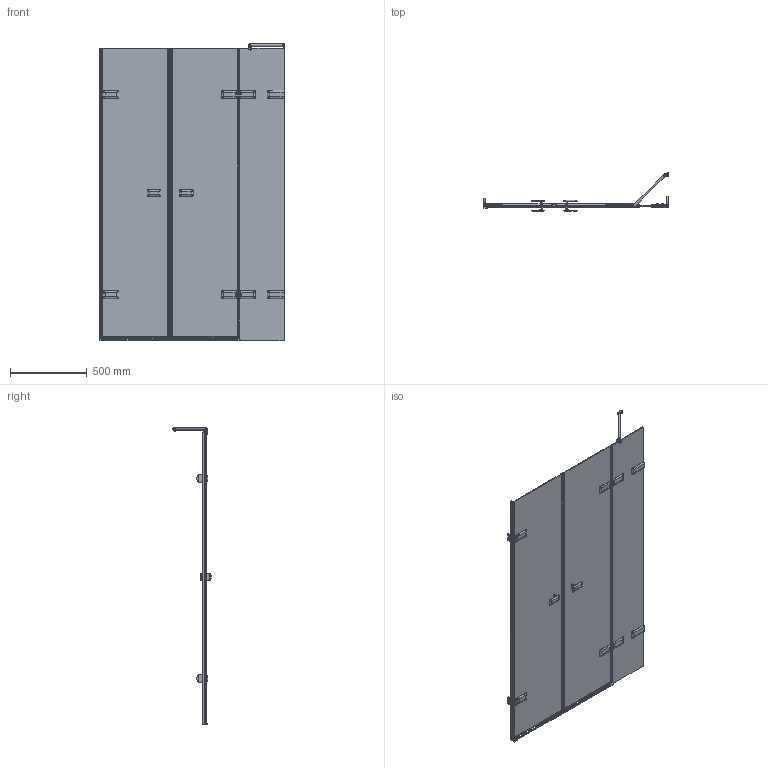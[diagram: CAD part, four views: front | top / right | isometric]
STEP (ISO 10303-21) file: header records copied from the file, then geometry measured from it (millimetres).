
FILE_DESCRIPTION(/* description */ (''),/* implementation_level */ '2;1');
FILE_NAME(/* name */ 'E:\Работа\Сергей\Душевые кабинки\! Работа\777\TREND DOOR GK-863A\TREND DOOR GK-863A левая модель\TREND DOOR GK-863A ЛЕВАЯ-3D.stp',/* time_stamp */ '2018-04-20T18:14:56+03:00',/* author */ ('PC'),/* organization */ (''),/* preprocessor_version */ 'ST-DEVELOPER v15.2',/* originating_system */ 'Autodesk Inventor 2014',/* authorisation */ '');
FILE_SCHEMA (('AUTOMOTIVE_DESIGN { 1 0 10303 214 3 1 1 }'));
Products named in the file (1): TREND DOOR GK-863A ЛЕВАЯ-3D
Bounding box: 1200 x 247.77 x 1934.76 mm (x, y, z)
Volume: 14975557.2 mm3; surface area: 5124740.1 mm2
Topology: 12 solids, 12 shells, 1873 faces, 4956 edges, 3060 vertices
Faces by surface type: plane 1075, cylinder 499, bspline 202, torus 56, cone 22, sphere 19
Full cylindrical faces by diameter (mm): 6 x4, 9 x8, 12 x3, 13 x4, 15 x1, 20 x2, 26 x1, 40 x2
Entity records: 77575 total; most frequent: CARTESIAN_POINT 30491, ORIENTED_EDGE 9616, DIRECTION 9113, EDGE_CURVE 4808, VERTEX_POINT 3038, AXIS2_PLACEMENT_3D 3038, LINE 3037, VECTOR 3037
